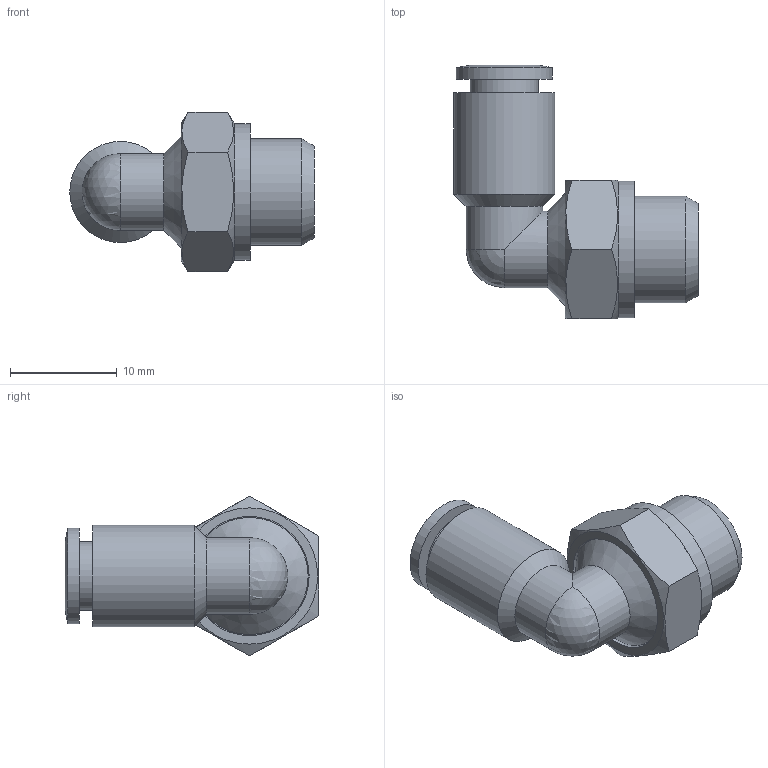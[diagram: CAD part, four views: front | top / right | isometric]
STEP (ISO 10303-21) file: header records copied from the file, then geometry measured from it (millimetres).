
FILE_DESCRIPTION((''),'2;1');
FILE_NAME('C:\Documents and Settings\rivolro1\Documenti\copia di Raccordi\PLASTICA\T22XXXX\T220418.stp','2007-11-02T14:26:59',('Rivolro1'),(''),'Autodesk Inventor 2008','Autodesk Inventor 2008','');
FILE_SCHEMA(('AUTOMOTIVE_DESIGN { 1 0 10303 214 1 1 1 1 }'));
Length unit declared in the file: millimetre
Products named in the file (1): T220418
Bounding box: 22.95 x 23.8 x 15.01 mm (x, y, z)
Volume: 2314.6 mm3; surface area: 1863.9 mm2
Topology: 1 solids, 1 shells, 36 faces, 79 edges, 47 vertices
Faces by surface type: plane 15, cylinder 10, cone 6, bspline 4, sphere 1
Full cylindrical faces by diameter (mm): 3 x1, 6.4 x1, 7.2 x2, 9 x1, 9.5 x1, 10 x1, 11 x1, 11.2 x1, 12.8 x1
Entity records: 954 total; most frequent: CARTESIAN_POINT 234, DIRECTION 136, ORIENTED_EDGE 102, AXIS2_PLACEMENT_3D 64, EDGE_LOOP 62, EDGE_CURVE 51, VERTEX_POINT 41, FACE_OUTER_BOUND 36
